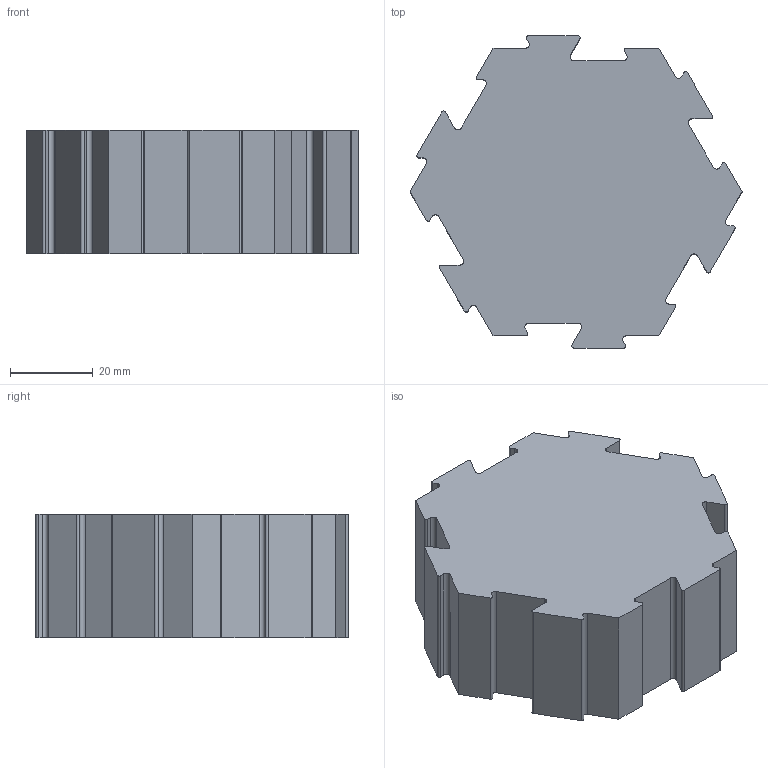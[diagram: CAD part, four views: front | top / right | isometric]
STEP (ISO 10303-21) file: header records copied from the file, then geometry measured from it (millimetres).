
FILE_DESCRIPTION(/* description */ (''),/* implementation_level */ '2;1');
FILE_NAME(/* name */ 'I:/3D_Drucker/OpenHexBoxes/30mm heigh body only.step',/* time_stamp */ '2017-09-28T15:21:14+02:00',/* author */ (''),/* organization */ (''),/* preprocessor_version */ 'ST-DEVELOPER v16.13',/* originating_system */ 'Autodesk Translation Framework v6.1.1.50',/* authorisation */ '');
FILE_SCHEMA (('AUTOMOTIVE_DESIGN { 1 0 10303 214 3 1 1 }'));
Length unit declared in the file: millimetre
Products named in the file (1): 30mm heigh body only v1
Bounding box: 80.37 x 75.6 x 30 mm (x, y, z)
Volume: 124495.7 mm3; surface area: 19016.7 mm2
Topology: 1 solids, 1 shells, 794 faces, 1965 edges, 1310 vertices
Faces by surface type: plane 729, cylinder 65
Entity records: 23168 total; most frequent: CARTESIAN_POINT 4070, ORIENTED_EDGE 3930, DIRECTION 3685, EDGE_CURVE 1965, LINE 1835, VECTOR 1835, VERTEX_POINT 1310, EDGE_LOOP 931
